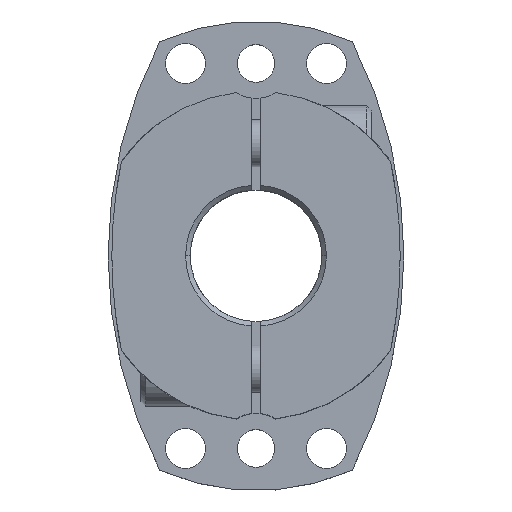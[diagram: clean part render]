
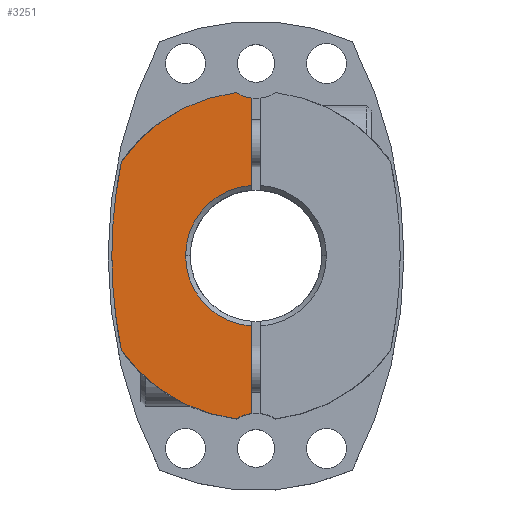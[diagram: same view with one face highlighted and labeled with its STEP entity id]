
A CAD part, top view. The second image highlights one B-rep face of the part: STEP entity #3251.
In plain terms, the highlighted planar face has unit normal (0, 0, 1).
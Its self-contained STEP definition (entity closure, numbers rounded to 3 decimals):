
#227=CARTESIAN_POINT('',(-15.0,0.,31.0));
#228=VERTEX_POINT('',#227);
#244=CARTESIAN_POINT('',(-1.0,14.967,31.0));
#245=VERTEX_POINT('',#244);
#259=CARTESIAN_POINT('',(0.0,0.0,31.0));
#260=DIRECTION('',(0.0,0.0,1.0));
#261=DIRECTION('',(-1.0,0.0,0.0));
#262=AXIS2_PLACEMENT_3D('',#259,#260,#261);
#263=CIRCLE('',#262,15.0);
#264=EDGE_CURVE('',#245,#228,#263,.T.);
#916=CARTESIAN_POINT('',(-30.7,0.,31.0));
#917=VERTEX_POINT('',#916);
#926=CARTESIAN_POINT('',(-28.638,20.121,31.0));
#927=VERTEX_POINT('',#926);
#928=CARTESIAN_POINT('',(68.5,0.,31.0));
#929=DIRECTION('',(0.0,0.0,-1.0));
#930=DIRECTION('',(1.0,0.0,0.0));
#931=AXIS2_PLACEMENT_3D('',#928,#929,#930);
#932=CIRCLE('',#931,99.2);
#933=EDGE_CURVE('',#917,#927,#932,.T.);
#2034=CARTESIAN_POINT('',(-28.638,-20.121,31.0));
#2035=VERTEX_POINT('',#2034);
#2042=CARTESIAN_POINT('',(68.5,0.,31.0));
#2043=DIRECTION('',(0.0,0.0,-1.0));
#2044=DIRECTION('',(1.0,0.0,0.0));
#2045=AXIS2_PLACEMENT_3D('',#2042,#2043,#2044);
#2046=CIRCLE('',#2045,99.2);
#2047=EDGE_CURVE('',#2035,#917,#2046,.T.);
#2553=CARTESIAN_POINT('',(-4.15,34.753,31.0));
#2554=VERTEX_POINT('',#2553);
#2555=CARTESIAN_POINT('',(0.,0.,31.0));
#2556=DIRECTION('',(0.0,0.0,-1.0));
#2557=DIRECTION('',(1.0,0.0,0.0));
#2558=AXIS2_PLACEMENT_3D('',#2555,#2556,#2557);
#2559=CIRCLE('',#2558,35.);
#2560=EDGE_CURVE('',#927,#2554,#2559,.T.);
#2896=CARTESIAN_POINT('',(-1.0,-14.967,31.0));
#2897=VERTEX_POINT('',#2896);
#2898=CARTESIAN_POINT('',(0.0,0.0,31.0));
#2899=DIRECTION('',(0.0,0.0,1.0));
#2900=DIRECTION('',(-1.0,0.0,0.0));
#2901=AXIS2_PLACEMENT_3D('',#2898,#2899,#2900);
#2902=CIRCLE('',#2901,15.0);
#2903=EDGE_CURVE('',#228,#2897,#2902,.T.);
#2928=CARTESIAN_POINT('',(-1.0,-33.567,31.0));
#2929=VERTEX_POINT('',#2928);
#2930=CARTESIAN_POINT('',(-1.0,-33.567,31.0));
#2931=DIRECTION('',(0.0,1.0,0.0));
#2932=VECTOR('',#2931,18.6);
#2933=LINE('',#2930,#2932);
#2934=EDGE_CURVE('',#2929,#2897,#2933,.T.);
#3009=CARTESIAN_POINT('',(-1.0,33.567,31.0));
#3010=VERTEX_POINT('',#3009);
#3017=CARTESIAN_POINT('',(-1.0,14.967,31.0));
#3018=DIRECTION('',(0.0,1.0,0.0));
#3019=VECTOR('',#3018,18.6);
#3020=LINE('',#3017,#3019);
#3021=EDGE_CURVE('',#245,#3010,#3020,.T.);
#3086=CARTESIAN_POINT('',(-4.15,-34.753,31.0));
#3087=VERTEX_POINT('',#3086);
#3088=CARTESIAN_POINT('',(0.,-41.,31.0));
#3089=DIRECTION('',(0.0,0.0,-1.0));
#3090=DIRECTION('',(1.0,0.0,0.0));
#3091=AXIS2_PLACEMENT_3D('',#3088,#3089,#3090);
#3092=CIRCLE('',#3091,7.5);
#3093=EDGE_CURVE('',#3087,#2929,#3092,.T.);
#3222=CARTESIAN_POINT('',(0.,0.,31.0));
#3223=DIRECTION('',(0.0,0.0,1.0));
#3224=DIRECTION('',(1.0,0.0,0.0));
#3225=AXIS2_PLACEMENT_3D('',#3222,#3223,#3224);
#3226=PLANE('',#3225);
#3227=ORIENTED_EDGE('',*,*,#264,.F.);
#3228=ORIENTED_EDGE('',*,*,#3021,.T.);
#3229=CARTESIAN_POINT('',(0.,41.,31.0));
#3230=DIRECTION('',(0.0,0.0,-1.0));
#3231=DIRECTION('',(1.0,0.0,0.0));
#3232=AXIS2_PLACEMENT_3D('',#3229,#3230,#3231);
#3233=CIRCLE('',#3232,7.5);
#3234=EDGE_CURVE('',#3010,#2554,#3233,.T.);
#3235=ORIENTED_EDGE('',*,*,#3234,.T.);
#3236=ORIENTED_EDGE('',*,*,#2560,.F.);
#3237=ORIENTED_EDGE('',*,*,#933,.F.);
#3238=ORIENTED_EDGE('',*,*,#2047,.F.);
#3239=CARTESIAN_POINT('',(0.,0.,31.0));
#3240=DIRECTION('',(0.0,0.0,-1.0));
#3241=DIRECTION('',(1.0,0.0,0.0));
#3242=AXIS2_PLACEMENT_3D('',#3239,#3240,#3241);
#3243=CIRCLE('',#3242,35.);
#3244=EDGE_CURVE('',#3087,#2035,#3243,.T.);
#3245=ORIENTED_EDGE('',*,*,#3244,.F.);
#3246=ORIENTED_EDGE('',*,*,#3093,.T.);
#3247=ORIENTED_EDGE('',*,*,#2934,.T.);
#3248=ORIENTED_EDGE('',*,*,#2903,.F.);
#3249=EDGE_LOOP('',(#3227,#3228,#3235,#3236,#3237,#3238,#3245,#3246,#3247,#3248));
#3250=FACE_OUTER_BOUND('',#3249,.T.);
#3251=ADVANCED_FACE('',(#3250),#3226,.T.);
